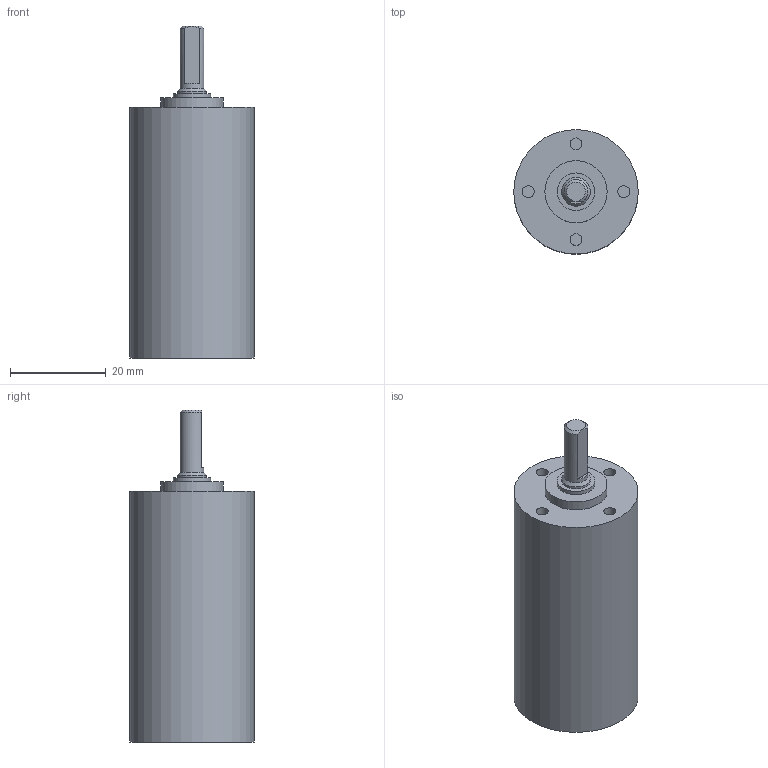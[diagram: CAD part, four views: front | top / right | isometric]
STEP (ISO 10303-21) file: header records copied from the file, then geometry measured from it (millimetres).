
FILE_DESCRIPTION(/* description */ (''),/* implementation_level */ '2;1');
FILE_NAME(/* name */ '26-1_4stage.stp',/* time_stamp */ '2021-02-23T07:21:59+01:00',/* author */ ('DR. FRITZ FAULHABER GmbH & Co. KG'),/* organization */ ('DR. FRITZ FAULHABER GmbH & Co. KG'),/* preprocessor_version */ 'ST-DEVELOPER v16.7',/* originating_system */ 'SIEMENS PLM Software NX 1919',/* authorisation */ '');
FILE_SCHEMA (('AUTOMOTIVE_DESIGN { 1 0 10303 214 3 1 1 1 }'));
Length unit declared in the file: millimetre
Products named in the file (1): 012020_A_2-TP-00214
Bounding box: 26 x 26 x 69.4 mm (x, y, z)
Volume: 23990.3 mm3; surface area: 6616.2 mm2
Topology: 1 solids, 1 shells, 34 faces, 65 edges, 47 vertices
Faces by surface type: plane 17, cylinder 15, cone 2
Full cylindrical faces by diameter (mm): 2.5 x4, 5 x1, 6 x1, 7.85 x1, 11.7 x1, 12.01 x1, 13 x1, 21.5 x1, 22.05 x1, 24 x1, 24.459 x1, 26 x1
Entity records: 824 total; most frequent: DIRECTION 157, CARTESIAN_POINT 123, AXIS2_PLACEMENT_3D 77, ORIENTED_EDGE 74, EDGE_LOOP 63, FACE_BOUND 54, CIRCLE 42, EDGE_CURVE 37
